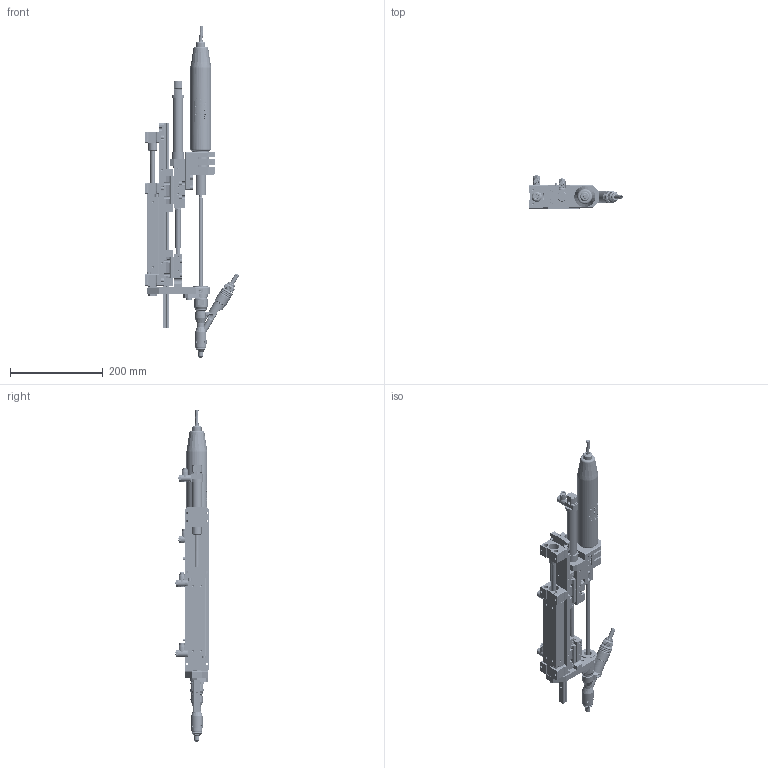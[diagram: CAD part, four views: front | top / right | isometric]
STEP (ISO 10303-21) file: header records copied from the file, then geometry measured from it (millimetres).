
FILE_DESCRIPTION(/* description */ (''),/* implementation_level */ '2;1');
FILE_NAME(/* name */ 'N:\07_Konstruktion_Mechanik\07_09_Kraft\Marketing Modelle\581005\581005.stp',/* time_stamp */ '2018-04-17T15:51:21+02:00',/* author */ ('kraft'),/* organization */ (''),/* preprocessor_version */ 'ST-DEVELOPER v15.2',/* originating_system */ 'Autodesk Inventor 2014',/* authorisation */ '');
FILE_SCHEMA (('CONFIG_CONTROL_DESIGN'));
Products named in the file (1): 581005
Bounding box: 202.2 x 73 x 714.72 mm (x, y, z)
Volume: 1222339.2 mm3; surface area: 453460.7 mm2
Topology: 37 solids, 74 shells, 4710 faces, 12223 edges, 7864 vertices
Faces by surface type: plane 2400, cylinder 1225, cone 574, bspline 374, torus 135, sphere 2
Full cylindrical faces by diameter (mm): 2 x2, 2.459 x5, 3 x7, 3.04 x3, 3.2 x3, 3.242 x8, 3.4 x8, 3.5 x4, 3.818 x16, 4 x6, 4.1 x4, 4.134 x60, 4.5 x7, 4.7 x1, 4.917 x15, 5 x20, 5.1 x6, 5.2 x14, 5.3 x6, 5.5 x16, 5.8 x1, 6 x24, 6.4 x1, 6.5 x1, 6.6 x5, 6.647 x5, 7 x14, 7.5 x7, 8 x11, 8.5 x20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
Entity records: 223465 total; most frequent: CARTESIAN_POINT 112167, ORIENTED_EDGE 22066, DIRECTION 20736, EDGE_CURVE 11021, VERTEX_POINT 7463, AXIS2_PLACEMENT_3D 7391, EDGE_LOOP 6026, LINE 5954
